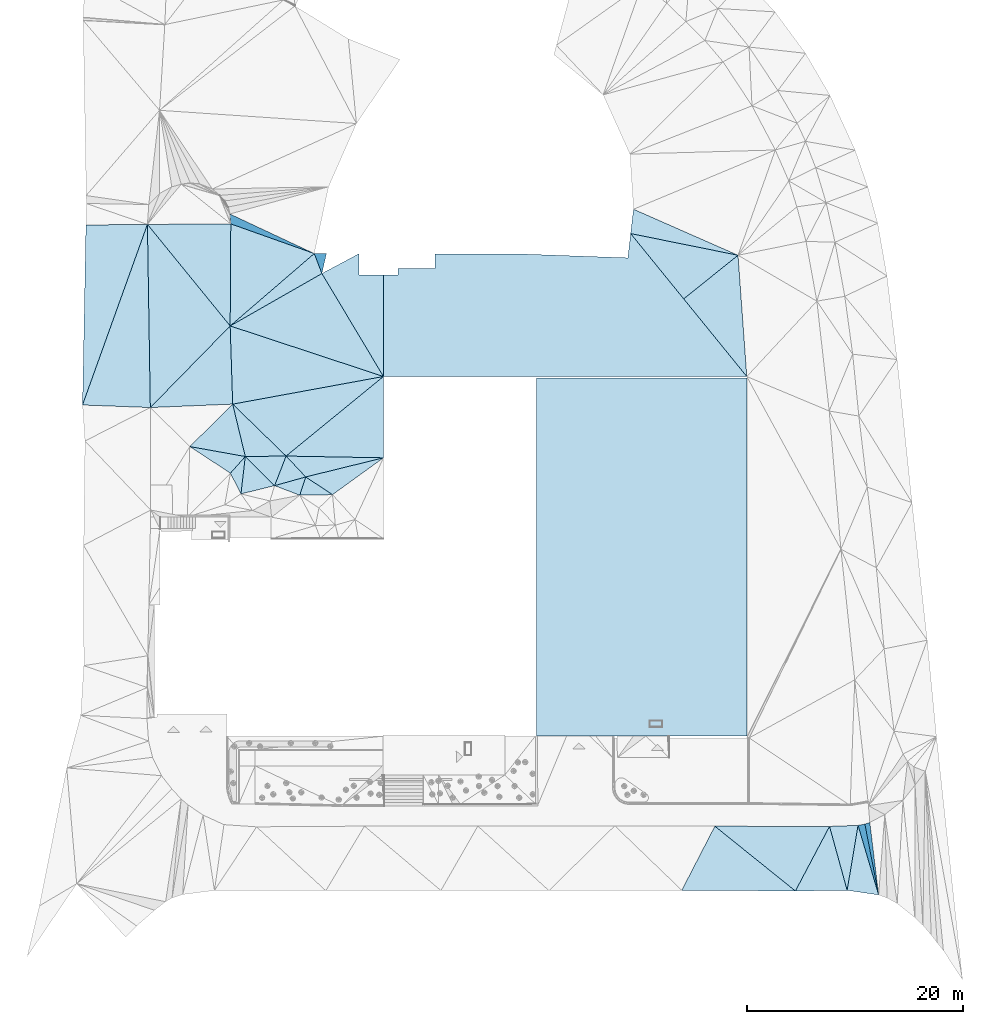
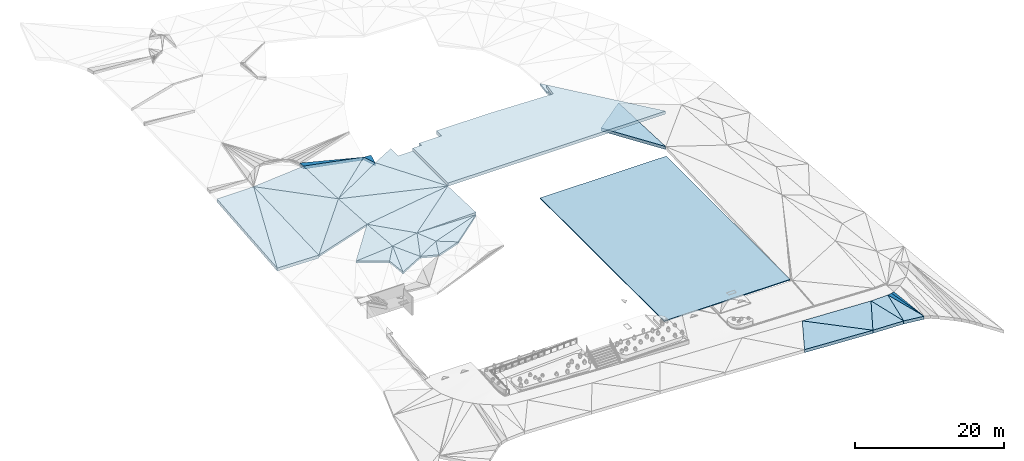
# One storey, part 4 of 23: 37 slabs, 6 elements without a shape of their own.
"""IFC2X3 building model written with IfcOpenShell, lengths in metres."""

from ifc_helpers import new_model, entity, si_unit, converted_unit, direction, frame, origin, origin_2d_with_axis, place, context, subcontext, project, spatial, polyline, rectangle, outline, extrude, material, layer, layer_set, layer_usage, type_object, element, aggregate, save


model = new_model("IFC2X3")

# Units and contexts
model_context = context("Model", 3, precision=1e-05, world=origin(), true_north=direction((0.7716245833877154, 0.6360782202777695)))
body_context = subcontext(model_context, "Body", "Model", "MODEL_VIEW")
ifc_project = project(units=[si_unit("LENGTHUNIT", "METRE"), converted_unit("PLANEANGLEUNIT", "DEGREE", entity("IfcPlaneAngleMeasure", 0.017453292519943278), si_unit("PLANEANGLEUNIT", "RADIAN"), dimensions=[0, 0, 0, 0, 0, 0, 0]), si_unit("AREAUNIT", "SQUARE_METRE")], contexts=[model_context])

# Site, building, storey
site_placement = place(None, origin())
site = spatial("IfcSite", under=ifc_project, at=site_placement, Name="Default", CompositionType="ELEMENT")
building_placement = place(site_placement, origin())
building = spatial("IfcBuilding", under=site, at=building_placement, Name="<Building Name>", CompositionType="ELEMENT")
storey_placement = place(building_placement, origin())
storey = spatial("IfcBuildingStorey", under=building, at=storey_placement, Name="00 - HAV", CompositionType="ELEMENT", Elevation=0.0)

# Slabs
slab_1_placement = place(storey_placement, frame((224.3175317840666, 93.71309800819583, 32.7900000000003)))
slab_1 = element("IfcSlab", 1, at=slab_1_placement, inside=storey, Name="Floor:771 Grøntarealer", ObjectType="Floor:771 Grøntarealer", PredefinedType="NOTDEFINED")
ifc_material_1 = material(Name="815 - Terrain, Grøntareal")
ifc_layer_1 = layer(ifc_material_1, 0.02)
ifc_material_2 = material(Name="Site - Soil - Jordlag")
ifc_layer_2 = layer(ifc_material_2, 0.30000000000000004)
ifc_layer_set_1 = layer_set([ifc_layer_1, ifc_layer_2], Name="Floor:771 Grøntarealer")
slab_type_1 = type_object("IfcSlabType", Name="Floor:771 Grøntarealer", PredefinedType="NOTDEFINED")
slab_2_placement = place(slab_1_placement, origin())
slab_2 = element("IfcSlab", 2, at=slab_2_placement, type_object=slab_type_1, material=ifc_layer_set_1, Name="Floor:771 Grøntarealer", ObjectType="Floor:771 Grøntarealer", PredefinedType="NOTDEFINED", context=body_context, shape_type="SweptSolid", body=[
    extrude(outline(polyline([(-5.233425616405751, 2.1403986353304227), (-5.5218206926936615, -0.11378154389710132), (5.233425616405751, -2.14039863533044), (-5.233425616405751, 2.1403986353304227)])), frame((48.008708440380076, 6.174582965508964, 2.3149999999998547), z_axis=(0.3794934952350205, -0.0038757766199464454, 0.9251862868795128), x_axis=(0.9251944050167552, 0.0015897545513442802, -0.37949016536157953)), (0.37949016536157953, -0.004189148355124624, -0.9251862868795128), 0.3200000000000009),
])
slab_3_placement = place(slab_1_placement, origin())
slab_3 = element("IfcSlab", 3, at=slab_3_placement, type_object=slab_type_1, material=ifc_layer_set_1, Name="Floor:771 Grøntarealer", ObjectType="Floor:771 Grøntarealer", PredefinedType="NOTDEFINED", context=body_context, shape_type="SweptSolid", body=[
    extrude(outline(polyline([(-5.20952764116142, 1.675245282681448), (-0.06019291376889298, -5.405341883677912), (5.209527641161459, -1.6752452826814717), (-5.20952764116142, 1.675245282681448)])), frame((47.87529768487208, 5.047273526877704, 2.3649999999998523), z_axis=(0.29645250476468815, -0.344774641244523, 0.8906437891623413), x_axis=(0.955047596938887, 0.10702011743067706, -0.2764611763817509)), (0.2764611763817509, -0.3610025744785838, -0.8906437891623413), 0.3200000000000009),
])
aggregate(slab_1, [slab_2, slab_3])

slab_4_placement = place(storey_placement, frame((222.4392111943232, 65.35219263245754, 32.77999999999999)))
slab_4 = element("IfcSlab", 4, at=slab_4_placement, inside=storey, Name="Floor:771 Grøntarealer", ObjectType="Floor:771 Grøntarealer", PredefinedType="NOTDEFINED")
slab_5_placement = place(slab_4_placement, origin())
slab_5 = element("IfcSlab", 5, at=slab_5_placement, type_object=slab_type_1, material=ifc_layer_set_1, Name="Floor:771 Grøntarealer", ObjectType="Floor:771 Grøntarealer", PredefinedType="NOTDEFINED", context=body_context, shape_type="SweptSolid", body=[
    extrude(outline(polyline([(4.530416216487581, 0.9418711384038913), (-4.490555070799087, 1.1165605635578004), (-2.673218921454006, -0.9778354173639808), (4.530416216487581, 0.9418711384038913)])), frame((17.34125353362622, 12.763442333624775, 4.59540458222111), z_axis=(-0.0005836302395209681, -0.3824395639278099, 0.9239803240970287), x_axis=(0.9999998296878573, -0.00022320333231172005, 0.0005392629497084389)), (-0.0005392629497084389, -0.38243962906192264, -0.9239803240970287), 0.3200000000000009),
])
slab_6_placement = place(slab_4_placement, origin())
slab_6 = element("IfcSlab", 6, at=slab_6_placement, type_object=slab_type_1, material=ifc_layer_set_1, Name="Floor:771 Grøntarealer", ObjectType="Floor:771 Grøntarealer", PredefinedType="NOTDEFINED", context=body_context, shape_type="SweptSolid", body=[
    extrude(outline(polyline([(3.339949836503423, 1.9866398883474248), (-3.883501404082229, 0.1428978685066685), (-1.3943793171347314, -1.4900448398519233), (3.339949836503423, 1.9866398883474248)])), frame((18.54088219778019, 11.686309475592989, 4.4896338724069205), z_axis=(-0.0740230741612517, -0.11181551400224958, 0.9909681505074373), x_axis=(0.9972565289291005, -0.008299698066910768, 0.07355630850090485)), (-0.07355630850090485, -0.11212312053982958, -0.9909681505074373), 0.3200000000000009),
])
slab_7_placement = place(slab_4_placement, origin())
slab_7 = element("IfcSlab", 7, at=slab_7_placement, type_object=slab_type_1, material=ifc_layer_set_1, Name="Floor:771 Grøntarealer", ObjectType="Floor:771 Grøntarealer", PredefinedType="NOTDEFINED", context=body_context, shape_type="SweptSolid", body=[
    extrude(outline(polyline([(3.48366362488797, -1.327948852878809), (-1.5659013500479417, 3.3833878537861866), (-0.37317181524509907, -1.5741970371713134), (3.48366362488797, -1.327948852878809)])), frame((9.435772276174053, 15.256023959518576, 4.693919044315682), z_axis=(-0.1976688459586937, -0.25070810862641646, 0.9476668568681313), x_axis=(0.9802688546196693, -0.05055468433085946, 0.19109473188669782)), (-0.19109473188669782, -0.25575443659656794, -0.9476668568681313), 0.3200000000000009),
])
slab_8_placement = place(slab_4_placement, origin())
slab_8 = element("IfcSlab", 8, at=slab_8_placement, type_object=slab_type_1, material=ifc_layer_set_1, Name="Floor:771 Grøntarealer", ObjectType="Floor:771 Grøntarealer", PredefinedType="NOTDEFINED", context=body_context, shape_type="SweptSolid", body=[
    extrude(outline(polyline([(-0.5990042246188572, 2.0131713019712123), (-1.6769428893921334, -1.2647241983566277), (1.2408110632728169, -0.06150575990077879), (-0.5990042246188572, 2.0131713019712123)])), frame((13.442384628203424, 12.011261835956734, 4.084138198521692), z_axis=(-0.15584398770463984, -0.4987263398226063, 0.8526339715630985), x_axis=(0.9877816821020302, -0.07868489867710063, 0.13452150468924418)), (-0.13452150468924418, -0.5048953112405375, -0.8526339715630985), 0.3200000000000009),
])
slab_9_placement = place(slab_4_placement, origin())
slab_9 = element("IfcSlab", 9, at=slab_9_placement, type_object=slab_type_1, material=ifc_layer_set_1, Name="Floor:771 Grøntarealer", ObjectType="Floor:771 Grøntarealer", PredefinedType="NOTDEFINED", context=body_context, shape_type="SweptSolid", body=[
    extrude(outline(polyline([(1.742894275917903, 1.7751126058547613), (-2.0970338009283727, 1.3383401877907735), (0.6614558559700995, -1.5016299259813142), (1.742894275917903, 1.7751126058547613)])), frame((11.134671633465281, 12.410339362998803, 3.869542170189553), z_axis=(-0.1749066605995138, -0.49161470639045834, 0.8530666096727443), x_axis=(0.9845850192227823, -0.08733292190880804, 0.15154306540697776)), (-0.15154306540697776, -0.4993115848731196, -0.8530666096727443), 0.3200000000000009),
])
slab_10_placement = place(slab_4_placement, origin())
slab_10 = element("IfcSlab", 10, at=slab_10_placement, type_object=slab_type_1, material=ifc_layer_set_1, Name="Floor:771 Grøntarealer", ObjectType="Floor:771 Grøntarealer", PredefinedType="NOTDEFINED", context=body_context, shape_type="SweptSolid", body=[
    extrude(outline(polyline([(4.091410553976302, -3.4800157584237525), (3.8491900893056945, 3.7683929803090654), (-3.8491900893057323, -3.7683929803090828), (4.091410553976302, -3.4800157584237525)])), frame((3.968614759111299, 22.071262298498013, 4.084999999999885), z_axis=(-0.27628693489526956, 0.012342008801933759, 0.9609959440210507), x_axis=(0.9610751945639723, 0.0035480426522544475, 0.27626415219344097)), (-0.27626415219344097, 0.012841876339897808, -0.9609959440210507), 0.3200000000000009),
])
slab_11_placement = place(slab_4_placement, origin())
slab_11 = element("IfcSlab", 11, at=slab_11_placement, type_object=slab_type_1, material=ifc_layer_set_1, Name="Floor:771 Grøntarealer", ObjectType="Floor:771 Grøntarealer", PredefinedType="NOTDEFINED", context=body_context, shape_type="SweptSolid", body=[
    extrude(outline(polyline([(0.5027512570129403, 3.660551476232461), (-3.6200885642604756, -0.7398342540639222), (1.7164670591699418, -1.291937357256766), (0.5027512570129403, 3.660551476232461)])), frame((7.416458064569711, 15.121685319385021, 4.129936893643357), z_axis=(-0.2683585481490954, -0.26323608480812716, 0.926655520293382), x_axis=(0.9633191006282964, -0.07333151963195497, 0.25814491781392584)), (-0.25814491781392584, -0.2732594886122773, -0.926655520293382), 0.3200000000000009),
])
slab_12_placement = place(slab_4_placement, origin())
slab_12 = element("IfcSlab", 12, at=slab_12_placement, type_object=slab_type_1, material=ifc_layer_set_1, Name="Floor:771 Grøntarealer", ObjectType="Floor:771 Grøntarealer", PredefinedType="NOTDEFINED", context=body_context, shape_type="SweptSolid", body=[
    extrude(outline(polyline([(3.845773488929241, -4.756839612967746), (3.904072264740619, 4.709109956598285), (-3.846173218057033, 4.691935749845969), (3.845773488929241, -4.756839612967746)])), frame((3.8341871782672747, 30.591445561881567, 4.583560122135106), z_axis=(-0.07888597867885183, 0.044715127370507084, 0.9958802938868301), x_axis=(0.99688364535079, 0.003538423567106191, 0.0788065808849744)), (-0.0788065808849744, 0.04485491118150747, -0.9958802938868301), 0.3200000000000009),
])
slab_13_placement = place(slab_4_placement, origin())
slab_13 = element("IfcSlab", 13, at=slab_13_placement, type_object=slab_type_1, material=ifc_layer_set_1, Name="Floor:771 Grøntarealer", ObjectType="Floor:771 Grøntarealer", PredefinedType="NOTDEFINED", context=body_context, shape_type="SweptSolid", body=[
    extrude(outline(polyline([(7.698174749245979, -0.8274391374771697), (-0.13757238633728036, 8.502430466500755), (0.13757238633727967, -8.502430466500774), (7.698174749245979, -0.8274391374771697)])), frame((0.13462682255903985, 26.77728625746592, 3.569999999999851), z_axis=(-0.20582417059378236, -0.060800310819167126, 0.9766983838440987), x_axis=(0.9785889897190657, -0.012787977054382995, 0.2054265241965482)), (-0.2054265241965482, -0.06213058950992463, -0.9766983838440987), 0.3200000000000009),
])
slab_14_placement = place(slab_4_placement, origin())
slab_14 = element("IfcSlab", 14, at=slab_14_placement, type_object=slab_type_1, material=ifc_layer_set_1, Name="Floor:771 Grøntarealer", ObjectType="Floor:771 Grøntarealer", PredefinedType="NOTDEFINED", context=body_context, shape_type="SweptSolid", body=[
    extrude(outline(polyline([(-0.9594246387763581, -2.275986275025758), (2.200106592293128, -1.122559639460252), (-0.5509606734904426, 1.7246011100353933), (-0.9594246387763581, -2.275986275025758)])), frame((9.613894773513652, 12.202932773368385, 3.459020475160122), z_axis=(-0.15923049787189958, -0.4795185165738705, 0.8629644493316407), x_axis=(0.98724143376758, -0.07734072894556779, 0.13918607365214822)), (-0.13918607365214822, -0.48571555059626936, -0.8629644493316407), 0.3200000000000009),
])
slab_15_placement = place(slab_4_placement, origin())
slab_15 = element("IfcSlab", 15, at=slab_15_placement, type_object=slab_type_1, material=ifc_layer_set_1, Name="Floor:771 Grøntarealer", ObjectType="Floor:771 Grøntarealer", PredefinedType="NOTDEFINED", context=body_context, shape_type="SweptSolid", body=[
    extrude(outline(polyline([(0.3907300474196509, -2.0604429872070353), (0.7952143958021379, 1.9405487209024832), (-0.5886537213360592, 0.10266394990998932), (0.3907300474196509, -2.0604429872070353)])), frame((8.277170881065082, 12.09530568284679, 3.2093234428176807), z_axis=(-0.07798353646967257, -0.4915155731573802, 0.8673701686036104), x_axis=(0.9969546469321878, -0.03844720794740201, 0.06784721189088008)), (-0.06784721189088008, -0.49301698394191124, -0.8673701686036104), 0.3200000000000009),
])
slab_16_placement = place(slab_4_placement, origin())
slab_16 = element("IfcSlab", 16, at=slab_16_placement, type_object=slab_type_1, material=ifc_layer_set_1, Name="Floor:771 Grøntarealer", ObjectType="Floor:771 Grøntarealer", PredefinedType="NOTDEFINED", context=body_context, shape_type="SweptSolid", body=[
    extrude(outline(polyline([(0.9203004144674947, -1.3241217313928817), (1.4785134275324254, 0.6436219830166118), (-1.4483451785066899, -0.5372765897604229), (0.9203004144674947, -1.3241217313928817)])), frame((13.212129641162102, 11.410162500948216, 3.6929778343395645), z_axis=(-0.17420750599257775, -0.4573282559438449, 0.8720680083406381), x_axis=(0.9847089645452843, -0.08090716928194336, 0.15427989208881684)), (-0.15427989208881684, -0.4644298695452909, -0.8720680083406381), 0.32000000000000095),
])
slab_17_placement = place(slab_4_placement, origin())
slab_17 = element("IfcSlab", 17, at=slab_17_placement, type_object=slab_type_1, material=ifc_layer_set_1, Name="Floor:771 Grøntarealer", ObjectType="Floor:771 Grøntarealer", PredefinedType="NOTDEFINED", context=body_context, shape_type="SweptSolid", body=[
    extrude(outline(polyline([(-1.4371365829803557, -1.1588341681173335), (1.7188651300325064, -0.673617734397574), (-0.864973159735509, 0.8048985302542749), (-1.4371365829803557, -1.1588341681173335)])), frame((15.49901471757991, 11.031555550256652, 4.084719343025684), z_axis=(-0.2775890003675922, -0.4193119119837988, 0.8643621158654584), x_axis=(0.9606999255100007, -0.12115788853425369, 0.2497527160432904)), (-0.2497527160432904, -0.4364650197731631, -0.8643621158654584), 0.32000000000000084),
])
slab_18_placement = place(slab_4_placement, origin())
slab_18 = element("IfcSlab", 18, at=slab_18_placement, type_object=slab_type_1, material=ifc_layer_set_1, Name="Floor:771 Grøntarealer", ObjectType="Floor:771 Grøntarealer", PredefinedType="NOTDEFINED", context=body_context, shape_type="SweptSolid", body=[
    extrude(outline(polyline([(1.2386111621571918, -2.015260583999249), (2.6737198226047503, -0.21710193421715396), (-2.6737198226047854, 0.21710193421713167), (1.2386111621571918, -2.015260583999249)])), frame((6.49956058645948, 14.214261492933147, 3.606631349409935), z_axis=(-0.27529992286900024, -0.3367948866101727, 0.9004327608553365), x_axis=(0.9613583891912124, -0.09644645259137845, 0.2578529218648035)), (-0.2578529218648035, -0.3503322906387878, -0.9004327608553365), 0.3200000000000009),
])
aggregate(slab_4, [slab_5, slab_6, slab_7, slab_8, slab_9, slab_10, slab_11, slab_12, slab_13, slab_14, slab_15, slab_16, slab_17, slab_18])

slab_19_placement = place(storey_placement, frame((272.13534237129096, 46.77280201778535, 29.448733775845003)))
slab_19 = element("IfcSlab", 19, at=slab_19_placement, inside=storey, Name="Floor:761 Asfalt - Kjørearealer", ObjectType="Floor:761 Asfalt - Kjørearealer", PredefinedType="NOTDEFINED")
ifc_material_3 = material(Name="Site - Asphalt - Asfaltbetong")
ifc_layer_3 = layer(ifc_material_3, 0.03)
ifc_material_4 = material(Name="A_Default_Building_Part")
ifc_layer_4 = layer(ifc_material_4, 0.07)
ifc_material_5 = material(Name="Site - Gravel - Stabilitet grus")
ifc_layer_5 = layer(ifc_material_5, 0.2)
ifc_material_6 = material(Name="Site - Gravel - Bunnsikringsgrus")
ifc_layer_6 = layer(ifc_material_6, 0.2)
ifc_layer_set_2 = layer_set([ifc_layer_3, ifc_layer_4, ifc_layer_5, ifc_layer_6], Name="Floor:761 Asfalt - Kjørearealer")
slab_type_2 = type_object("IfcSlabType", Name="Floor:761 Asfalt - Kjørearealer", PredefinedType="NOTDEFINED")
slab_20_placement = place(slab_19_placement, origin())
slab_20 = element("IfcSlab", 20, at=slab_20_placement, type_object=slab_type_2, material=ifc_layer_set_2, Name="Floor:761 Asfalt - Kjørearealer", ObjectType="Floor:761 Asfalt - Kjørearealer", PredefinedType="NOTDEFINED", context=body_context, shape_type="SweptSolid", body=[
    extrude(outline(polyline([(-0.38273592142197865, 5.647695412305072), (-5.42518163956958, 1.6156591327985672), (0.4333863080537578, -5.607194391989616), (-0.38273592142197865, 5.647695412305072)])), frame((5.41484031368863, 45.34328582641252, 3.3568201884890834), z_axis=(0.061714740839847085, -0.04963430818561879, 0.9968589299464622), x_axis=(0.9980938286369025, 0.0030690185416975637, -0.06163838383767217)), (0.06163838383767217, -0.04972910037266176, -0.9968589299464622), 0.49999999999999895),
])
aggregate(slab_19, [slab_20])

slab_21_placement = place(storey_placement, frame((215.88810139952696, 30.595880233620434, 28.880000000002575)))
slab_21 = element("IfcSlab", 21, at=slab_21_placement, inside=storey, Name="Floor:761 Asfalt - Kjørearealer", ObjectType="Floor:761 Asfalt - Kjørearealer", PredefinedType="NOTDEFINED")
slab_22_placement = place(slab_21_placement, origin())
slab_22 = element("IfcSlab", 22, at=slab_22_placement, type_object=slab_type_2, material=ifc_layer_set_2, Name="Floor:761 Asfalt - Kjørearealer", ObjectType="Floor:761 Asfalt - Kjørearealer", PredefinedType="NOTDEFINED", context=body_context, shape_type="SweptSolid", body=[
    extrude(outline(polyline([(-0.40865545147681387, 3.3584111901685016), (-0.8705945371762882, 3.211400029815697), (0.40865545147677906, -3.358411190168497), (-0.40865545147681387, 3.3584111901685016)])), frame((73.90349524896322, 11.238094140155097, 0.8549999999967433), z_axis=(0.030431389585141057, -0.027550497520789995, 0.9991570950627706), x_axis=(0.999536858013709, 0.0008387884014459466, -0.030419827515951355)), (0.030419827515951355, -0.027563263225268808, -0.9991570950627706), 0.49999999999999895),
])
slab_23_placement = place(slab_21_placement, origin())
slab_23 = element("IfcSlab", 23, at=slab_23_placement, type_object=slab_type_2, material=ifc_layer_set_2, Name="Floor:761 Asfalt - Kjørearealer", ObjectType="Floor:761 Asfalt - Kjørearealer", PredefinedType="NOTDEFINED", context=body_context, shape_type="SweptSolid", body=[
    extrude(outline(polyline([(-0.3246876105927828, 3.343430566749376), (-0.9539929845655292, 3.226491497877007), (0.9539929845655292, -3.2264914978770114), (-0.3246876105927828, 3.343430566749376)])), frame((73.3579856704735, 11.105922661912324, 0.8599999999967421), z_axis=(0.006008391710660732, -0.03231657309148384, 0.9994596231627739), x_axis=(0.9999819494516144, 0.00019417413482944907, -0.006005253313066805)), (0.006005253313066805, -0.03231715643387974, -0.9994596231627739), 0.49999999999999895),
])
slab_24_placement = place(slab_21_placement, origin())
slab_24 = element("IfcSlab", 24, at=slab_24_placement, type_object=slab_type_2, material=ifc_layer_set_2, Name="Floor:761 Asfalt - Kjørearealer", ObjectType="Floor:761 Asfalt - Kjørearealer", PredefinedType="NOTDEFINED", context=body_context, shape_type="SweptSolid", body=[
    extrude(outline(polyline([(1.2176218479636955, 3.0364986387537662), (-1.4269818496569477, 2.943917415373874), (0.20470474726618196, -2.9867064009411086), (1.2176218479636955, 3.0364986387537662)])), frame((71.1864369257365, 11.296004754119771, 0.86037822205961), z_axis=(0.00895912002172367, -0.03968951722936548, 0.9991718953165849), x_axis=(0.9999598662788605, 0.00035559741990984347, -0.008952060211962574)), (0.008952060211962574, -0.039691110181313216, -0.9991718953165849), 0.49999999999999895),
])
slab_25_placement = place(slab_21_placement, origin())
slab_25 = element("IfcSlab", 25, at=slab_25_placement, type_object=slab_type_2, material=ifc_layer_set_2, Name="Floor:761 Asfalt - Kjørearealer", ObjectType="Floor:761 Asfalt - Kjørearealer", PredefinedType="NOTDEFINED", context=body_context, shape_type="SweptSolid", body=[
    extrude(outline(polyline([(-0.9489884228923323, 3.256363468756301), (-1.9619043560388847, -2.766841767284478), (0.9590374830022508, -3.1966077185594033), (-0.9489884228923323, 3.256363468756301)])), frame((73.35296133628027, 11.076066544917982, 0.858859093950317), z_axis=(-0.008829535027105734, -0.03670036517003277, 0.9992873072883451), x_axis=(0.9999610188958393, -0.0003240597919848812, 0.00882358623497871)), (-0.00882358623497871, -0.03670179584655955, -0.9992873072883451), 0.49999999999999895),
])
slab_26_placement = place(slab_21_placement, origin())
slab_26 = element("IfcSlab", 26, at=slab_26_placement, type_object=slab_type_2, material=ifc_layer_set_2, Name="Floor:761 Asfalt - Kjørearealer", ObjectType="Floor:761 Asfalt - Kjørearealer", PredefinedType="NOTDEFINED", context=body_context, shape_type="SweptSolid", body=[
    extrude(outline(polyline([(5.325629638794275, 2.9841428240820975), (-5.3097219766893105, 3.012356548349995), (2.1603137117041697, -3.004001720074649), (5.325629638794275, 2.9841428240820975)])), frame((64.43863817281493, 11.247454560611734, 1.123371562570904), z_axis=(0.04225022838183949, -0.030645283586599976, 0.9986369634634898), x_axis=(0.9991070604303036, 0.0012959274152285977, -0.04223034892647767)), (0.04223034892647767, -0.03067267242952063, -0.9986369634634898), 0.49999999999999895),
])
slab_27_placement = place(slab_21_placement, origin())
slab_27 = element("IfcSlab", 27, at=slab_27_placement, type_object=slab_type_2, material=ifc_layer_set_2, Name="Floor:761 Asfalt - Kjørearealer", ObjectType="Floor:761 Asfalt - Kjørearealer", PredefinedType="NOTDEFINED", context=body_context, shape_type="SweptSolid", body=[
    extrude(outline(polyline([(-0.2806145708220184, 3.978983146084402), (-3.4459063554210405, -2.0091741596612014), (1.3524523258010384, -1.9512607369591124), (-0.2806145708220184, 3.978983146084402)])), frame((70.0398784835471, 10.260333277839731, 0.8565344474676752), z_axis=(0.04206963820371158, -0.03055001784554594, 0.9986475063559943), x_axis=(0.9991146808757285, 0.0012863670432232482, -0.04204996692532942)), (0.04204996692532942, -0.030577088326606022, -0.9986475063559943), 0.49999999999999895),
])
slab_28_placement = place(slab_21_placement, origin())
slab_28 = element("IfcSlab", 28, at=slab_28_placement, type_object=slab_type_2, material=ifc_layer_set_2, Name="Floor:761 Asfalt - Kjørearealer", ObjectType="Floor:761 Asfalt - Kjørearealer", PredefinedType="NOTDEFINED", context=body_context, shape_type="SweptSolid", body=[
    extrude(outline(polyline([(-2.640540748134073, 5.125159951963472), (-5.708455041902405, -0.8082456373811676), (4.830191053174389, -0.8903339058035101), (-2.640540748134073, 5.125159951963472)])), frame((61.77159453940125, 9.131645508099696, 1.1792941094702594), z_axis=(0.044397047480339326, -0.027975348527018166, 0.9986221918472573), x_axis=(0.9990139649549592, 0.0012432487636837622, -0.04437963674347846)), (0.04437963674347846, -0.02800296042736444, -0.9986221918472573), 0.49999999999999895),
])
aggregate(slab_21, [slab_22, slab_23, slab_24, slab_25, slab_26, slab_27, slab_28])

slab_29_placement = place(storey_placement, frame((210.63176110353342, 32.75602782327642, 31.369999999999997)))
slab_29 = element("IfcSlab", 29, at=slab_29_placement, inside=storey, Name="Floor:761 Asfalt - Kjørearealer", ObjectType="Floor:761 Asfalt - Kjørearealer", PredefinedType="NOTDEFINED")
slab_30_placement = place(slab_29_placement, origin())
slab_30 = element("IfcSlab", 30, at=slab_30_placement, type_object=slab_type_2, material=ifc_layer_set_2, Name="Floor:761 Asfalt - Kjørearealer", ObjectType="Floor:761 Asfalt - Kjørearealer", PredefinedType="NOTDEFINED", context=body_context, shape_type="SweptSolid", body=[
    extrude(outline(polyline([(-2.687363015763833, 8.331316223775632), (-3.0080950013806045, -8.386615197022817), (3.008095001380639, 8.386615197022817), (-2.687363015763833, 8.331316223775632)])), frame((8.7993556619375, 59.49136262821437, 4.950000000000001), z_axis=(0.0006169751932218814, -0.0634167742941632, 0.9979869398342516), x_axis=(0.9999998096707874, 3.912658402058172e-05, -0.0006157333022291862)), (0.0006157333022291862, -0.06341678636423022, -0.9979869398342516), 0.49999999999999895),
])
slab_31_placement = place(slab_29_placement, origin())
slab_31 = element("IfcSlab", 31, at=slab_31_placement, type_object=slab_type_2, material=ifc_layer_set_2, Name="Floor:761 Asfalt - Kjørearealer", ObjectType="Floor:761 Asfalt - Kjørearealer", PredefinedType="NOTDEFINED", context=body_context, shape_type="SweptSolid", body=[
    extrude(outline(polyline([(-3.45596750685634, -8.370027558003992), (2.8299083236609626, -8.60190046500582), (2.5606361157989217, 8.403054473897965), (-3.45596750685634, -8.370027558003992)])), frame((9.246990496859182, 59.47456784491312, 4.954273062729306), z_axis=(-0.011741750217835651, -0.058987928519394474, 0.9981896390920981), x_axis=(0.999931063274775, -0.000692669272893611, 0.011721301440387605)), (-0.011721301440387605, -0.05899199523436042, -0.9981896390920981), 0.49999999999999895),
])
aggregate(slab_29, [slab_30, slab_31])

slab_32_placement = place(storey_placement, frame((222.56682960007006, 78.98489431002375, 36.43999999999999)))
slab_32 = element("IfcSlab", 32, at=slab_32_placement, inside=storey, Name="Floor:761 Asfalt - Kjørearealer", ObjectType="Floor:761 Asfalt - Kjørearealer", PredefinedType="NOTDEFINED")
slab_33_placement = place(slab_32_placement, origin())
slab_33 = element("IfcSlab", 33, at=slab_33_placement, type_object=slab_type_2, material=ifc_layer_set_2, Name="Floor:761 Asfalt - Kjørearealer", ObjectType="Floor:761 Asfalt - Kjørearealer", PredefinedType="NOTDEFINED", context=body_context, shape_type="SweptSolid", body=[
    extrude(outline(polyline([(4.512704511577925, -3.769919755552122), (4.512965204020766, 3.769607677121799), (-4.512959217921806, -3.596482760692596), (4.512704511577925, -3.769919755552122)])), frame((17.23369298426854, 3.7627759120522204, 1.3829482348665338), z_axis=(-0.03224701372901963, 0.03404244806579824, 0.9989000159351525), x_axis=(0.9994799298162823, 0.001098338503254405, 0.03222830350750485)), (-0.03222830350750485, 0.034060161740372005, -0.9989000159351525), 0.49999999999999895),
])
slab_34_placement = place(slab_32_placement, origin())
slab_34 = element("IfcSlab", 34, at=slab_34_placement, type_object=slab_type_2, material=ifc_layer_set_2, Name="Floor:761 Asfalt - Kjørearealer", ObjectType="Floor:761 Asfalt - Kjørearealer", PredefinedType="NOTDEFINED", context=body_context, shape_type="SweptSolid", body=[
    extrude(outline(polyline([(2.849784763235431, -5.694376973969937), (2.8616043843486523, 3.724086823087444), (0.5889479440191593, 3.729805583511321), (0.589569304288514, 4.326462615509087), (0.5930005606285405, 5.690056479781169), (-2.8521018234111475, 3.8480278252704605), (2.849784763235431, -5.694376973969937)])), frame((18.89452636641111, 13.229530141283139, 1.4000000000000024)), (0.0, 0.0, -1.0), 0.49999999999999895),
])
slab_35_placement = place(slab_32_placement, origin())
slab_35 = element("IfcSlab", 35, at=slab_35_placement, type_object=slab_type_2, material=ifc_layer_set_2, Name="Floor:761 Asfalt - Kjørearealer", ObjectType="Floor:761 Asfalt - Kjørearealer", PredefinedType="NOTDEFINED", context=body_context, shape_type="SweptSolid", body=[
    extrude(outline(polyline([(7.102020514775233, -2.3425263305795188), (1.4000988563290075, 7.199857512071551), (-7.102020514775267, 2.3425263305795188), (7.102020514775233, -2.3425263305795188)])), frame((14.642334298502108, 9.877726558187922, 1.4200000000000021), z_axis=(0.0035073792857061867, 0.0020957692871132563, 0.9999916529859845), x_axis=(0.9999938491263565, -7.35070299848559e-06, -0.0035073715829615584)), (0.0035073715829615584, 0.0020957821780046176, -0.9999916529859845), 0.49999999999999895),
])
slab_36_placement = place(slab_32_placement, origin())
slab_36 = element("IfcSlab", 36, at=slab_36_placement, type_object=slab_type_2, material=ifc_layer_set_2, Name="Floor:761 Asfalt - Kjørearealer", ObjectType="Floor:761 Asfalt - Kjørearealer", PredefinedType="NOTDEFINED", context=body_context, shape_type="SweptSolid", body=[
    extrude(outline(polyline([(8.168688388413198, 0.892888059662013), (-6.036004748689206, 5.57596321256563), (-5.803200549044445, -1.6727540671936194), (8.168688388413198, 0.892888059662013)])), frame((13.576047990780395, 6.644356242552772, 1.503330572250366), z_axis=(0.01020363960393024, 0.02239932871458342, 0.9996970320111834), x_axis=(0.9999479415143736, -0.00022856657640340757, -0.010201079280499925)), (0.010201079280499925, 0.022400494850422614, -0.9996970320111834), 0.49999999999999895),
])
slab_37_placement = place(slab_32_placement, origin())
slab_37 = element("IfcSlab", 37, at=slab_37_placement, type_object=slab_type_2, material=ifc_layer_set_2, Name="Floor:761 Asfalt - Kjørearealer", ObjectType="Floor:761 Asfalt - Kjørearealer", PredefinedType="NOTDEFINED", context=body_context, shape_type="SweptSolid", body=[
    extrude(outline(polyline([(6.480967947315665, 4.0449133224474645), (-7.4929129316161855, 1.4901426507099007), (-2.542018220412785, -3.324775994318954), (6.480967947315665, 4.0449133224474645)])), frame((15.264604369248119, 3.4882280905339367, 1.4081879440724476), z_axis=(0.0197271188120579, -0.029563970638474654, 0.9993682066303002), x_axis=(0.999805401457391, 0.0005833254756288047, -0.019718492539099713)), (0.019718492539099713, -0.029569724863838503, -0.9993682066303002), 0.49999999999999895),
])
slab_38_placement = place(slab_32_placement, origin())
slab_38 = element("IfcSlab", 38, at=slab_38_placement, type_object=slab_type_2, material=ifc_layer_set_2, Name="Floor:761 Asfalt - Kjørearealer", ObjectType="Floor:761 Asfalt - Kjørearealer", PredefinedType="NOTDEFINED", context=body_context, shape_type="SweptSolid", body=[
    extrude(outline(polyline([(0.32790164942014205, -1.046785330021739), (0.7480789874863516, 0.8022822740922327), (-0.38280189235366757, 0.8051867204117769), (0.32790164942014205, -1.046785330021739)])), frame((15.714984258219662, 18.124057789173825, 1.4299999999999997), z_axis=(0.053028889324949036, -0.012032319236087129, 0.9985204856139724), x_axis=(0.9985929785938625, 0.0006389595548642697, -0.0530250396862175)), (0.0530250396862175, -0.01204927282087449, -0.9985204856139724), 0.49999999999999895),
])
slab_39_placement = place(slab_32_placement, origin())
slab_39 = element("IfcSlab", 39, at=slab_39_placement, type_object=slab_type_2, material=ifc_layer_set_2, Name="Floor:761 Asfalt - Kjørearealer", ObjectType="Floor:761 Asfalt - Kjørearealer", PredefinedType="NOTDEFINED", context=body_context, shape_type="SweptSolid", body=[
    extrude(outline(polyline([(4.606720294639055, 1.501208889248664), (3.896888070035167, 3.3535150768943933), (-3.896888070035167, -3.3535150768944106), (4.606720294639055, 1.501208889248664)])), frame((11.436539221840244, 15.574620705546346, 1.4500000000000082), z_axis=(0.019038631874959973, -0.02509390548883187, 0.9995037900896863), x_axis=(0.9998187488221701, 0.00047784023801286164, -0.019032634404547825)), (0.019032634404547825, -0.02509845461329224, -0.9995037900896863), 0.49999999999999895),
])
slab_40_placement = place(slab_32_placement, origin())
slab_40 = element("IfcSlab", 40, at=slab_40_placement, type_object=slab_type_2, material=ifc_layer_set_2, Name="Floor:761 Asfalt - Kjørearealer", ObjectType="Floor:761 Asfalt - Kjørearealer", PredefinedType="NOTDEFINED", context=body_context, shape_type="SweptSolid", body=[
    extrude(outline(polyline([(4.082859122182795, -1.4736551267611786), (-3.7452717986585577, 2.194159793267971), (-3.662974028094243, 1.2769209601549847), (4.082859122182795, -1.4736551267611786)])), frame((11.255969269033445, 20.401231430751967, 1.2279314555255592), z_axis=(-0.05467629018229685, 0.005987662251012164, 0.998486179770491), x_axis=(0.9985041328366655, 0.00032787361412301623, 0.05467530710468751)), (-0.05467530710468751, 0.005996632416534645, -0.998486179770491), 0.49999999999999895),
])
slab_41_placement = place(slab_32_placement, origin())
slab_41 = element("IfcSlab", 41, at=slab_41_placement, type_object=slab_type_2, material=ifc_layer_set_2, Name="Floor:761 Asfalt - Kjørearealer", ObjectType="Floor:761 Asfalt - Kjørearealer", PredefinedType="NOTDEFINED", context=body_context, shape_type="SweptSolid", body=[
    extrude(outline(polyline([(5.372932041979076, 2.8242271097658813), (-2.367805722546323, 5.589110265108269), (-2.4259715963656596, -3.8768401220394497), (5.372932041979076, 2.8242271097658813)])), frame((9.964294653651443, 16.097710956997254, 1.366244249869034), z_axis=(-0.04094494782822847, 0.04458348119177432, 0.9981662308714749), x_axis=(0.999161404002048, 0.0018270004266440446, 0.04090416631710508)), (-0.04090416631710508, 0.04462090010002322, -0.9981662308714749), 0.49999999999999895),
])
aggregate(slab_32, [slab_33, slab_34, slab_35, slab_36, slab_37, slab_38, slab_39, slab_40, slab_41])

ifc_material_7 = material(Name="A_Default_Building_Component")
ifc_layer_7 = layer(ifc_material_7, 0.15000000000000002)
ifc_layer_set_3 = layer_set([ifc_layer_7], Name="Pad:710 Sand (Bearbeidet terreng), 150mm")
ifc_layer_usage_1 = layer_usage(ifc_layer_set_3, "AXIS3", "NEGATIVE", 0.0)
slab_type_3 = type_object("IfcSlabType", Name="Pad:710 Sand (Bearbeidet terreng), 150mm", PredefinedType="FLOOR", material=ifc_layer_set_3)
slab_42_placement = place(storey_placement, origin())
element("IfcSlab", 42, at=slab_42_placement, inside=storey, type_object=slab_type_3, material=ifc_layer_usage_1, Name="Pad:710 Sand (Bearbeidet terreng), 150mm", ObjectType="Pad:710 Sand (Bearbeidet terreng), 150mm", PredefinedType="FLOOR", context=body_context, shape_type="SweptSolid", body=[
    extrude(rectangle(XDim=19.470583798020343, YDim=33.199274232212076, at=origin_2d_with_axis()), frame((268.24452880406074, 69.78576743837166, 30.864), z_axis=(0.0, 0.0, 1.0), x_axis=(-1.0, 0.0, 0.0)), (0.0, 0.0, 1.0), 0.15000000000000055),
])
ifc_layer_usage_2 = layer_usage(ifc_layer_set_2, "AXIS3", "POSITIVE", 0.0)
slab_type_4 = type_object("IfcSlabType", Name="Floor:761 Asfalt - Kjørearealer", PredefinedType="FLOOR", material=ifc_layer_set_2)
slab_43_placement = place(storey_placement, origin())
element("IfcSlab", 43, at=slab_43_placement, inside=storey, type_object=slab_type_4, material=ifc_layer_usage_2, Name="Floor:761 Asfalt - Kjørearealer", ObjectType="Floor:761 Asfalt - Kjørearealer", PredefinedType="FLOOR", context=body_context, shape_type="SweptSolid", body=[
    extrude(outline(polyline([(-9.112757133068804, 1.4214185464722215), (-9.112873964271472, 0.8247612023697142), (-10.454681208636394, 0.8320631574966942), (-10.458536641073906, -8.5864072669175), (23.213055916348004, -8.560821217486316), (12.436597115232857, 4.678032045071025), (12.179393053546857, 2.4295556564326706), (2.685566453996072, 2.7602465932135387), (-5.686747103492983, 2.779732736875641), (-5.689016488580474, 1.421418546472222), (-9.112757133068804, 1.4214185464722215)])), frame((254.77693423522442, 95.09760801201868, 38.3), z_axis=(0.0, 0.0, 1.0), x_axis=(0.9999996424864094, -0.0008455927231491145, 0.0)), (0.0, 0.0, -1.0), 0.49999999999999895),
])

save(model, "model.ifc")
